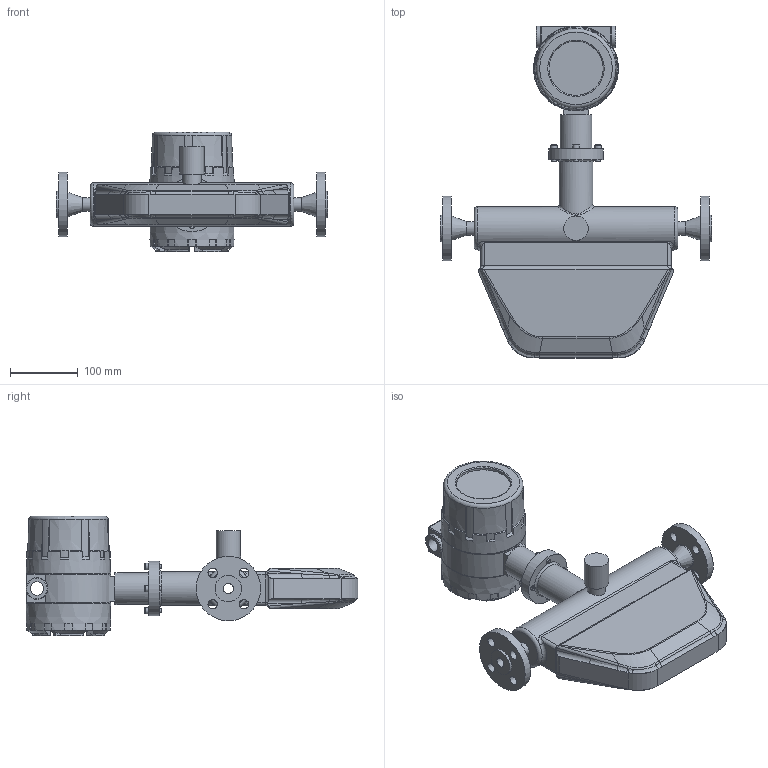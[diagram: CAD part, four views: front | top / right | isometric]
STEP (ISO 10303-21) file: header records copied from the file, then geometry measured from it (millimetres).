
FILE_DESCRIPTION(('STEP AP203'), '1');
FILE_NAME('Äó 15-4 ÌÏà-100 Ñ', '', ('UNSPECIFIED'), ('UNSPECIFIED'), 'ASCON STEP Converter 1.6', 'ASCON Math Kernel', '');
FILE_SCHEMA(('CONFIG_CONTROL_DESIGN'));
Length unit declared in the file: millimetre
Products named in the file (1): Äó 15 äî 4 ÌÏà
Bounding box: 400 x 489 x 176 mm (x, y, z)
Volume: 5593145.2 mm3; surface area: 357768 mm2
Topology: 1 solids, 1 shells, 453 faces, 1126 edges, 688 vertices
Faces by surface type: plane 205, cylinder 121, bspline 54, cone 52, torus 17, sphere 4
Full cylindrical faces by diameter (mm): 6.35 x4, 7 x4, 9.525 x4, 14 x8, 14.9 x1, 20 x3, 27 x1, 32 x2, 36 x1, 39 x2, 47 x1, 50 x1, 80 x2, 95 x2
Entity records: 22214 total; most frequent: CARTESIAN_POINT 8629, ORIENTED_EDGE 2098, DIRECTION 1923, EDGE_CURVE 1049, AXIS2_PLACEMENT_3D 764, VERTEX_POINT 684, EDGE_LOOP 559, FACE_BOUND 484
